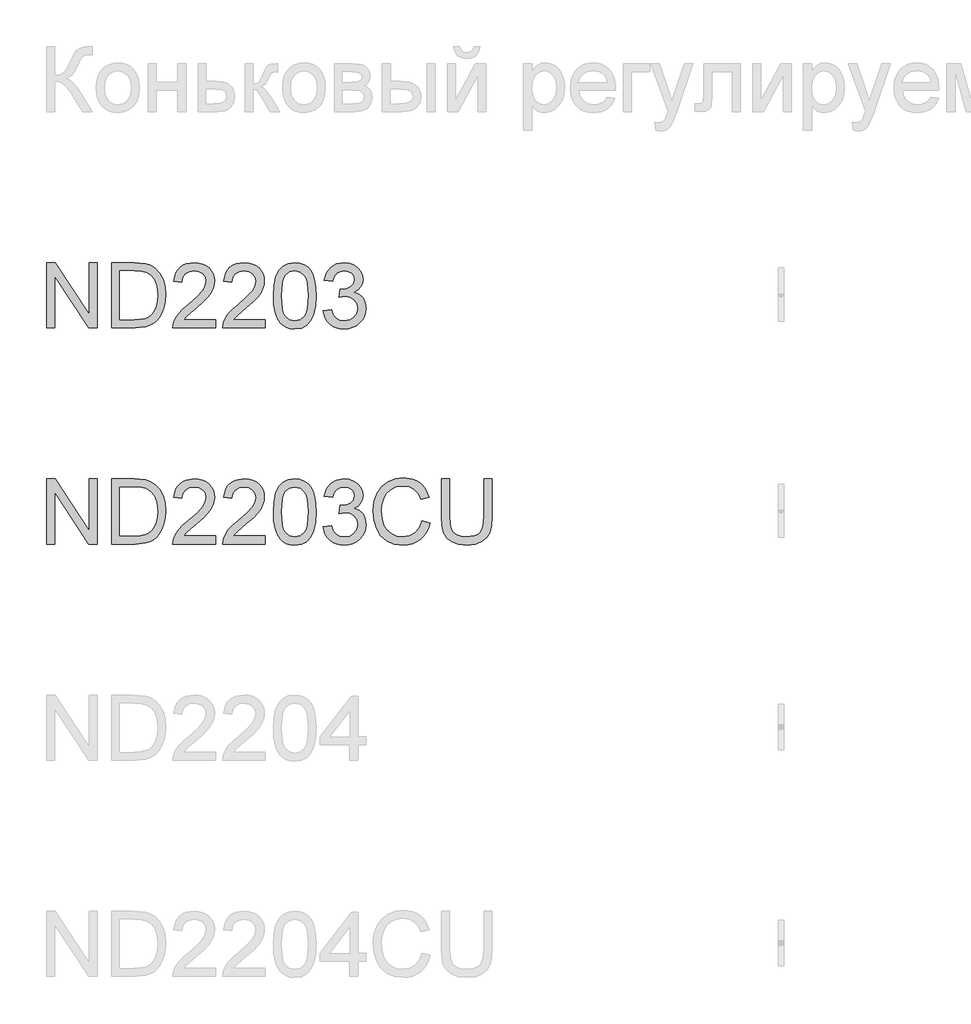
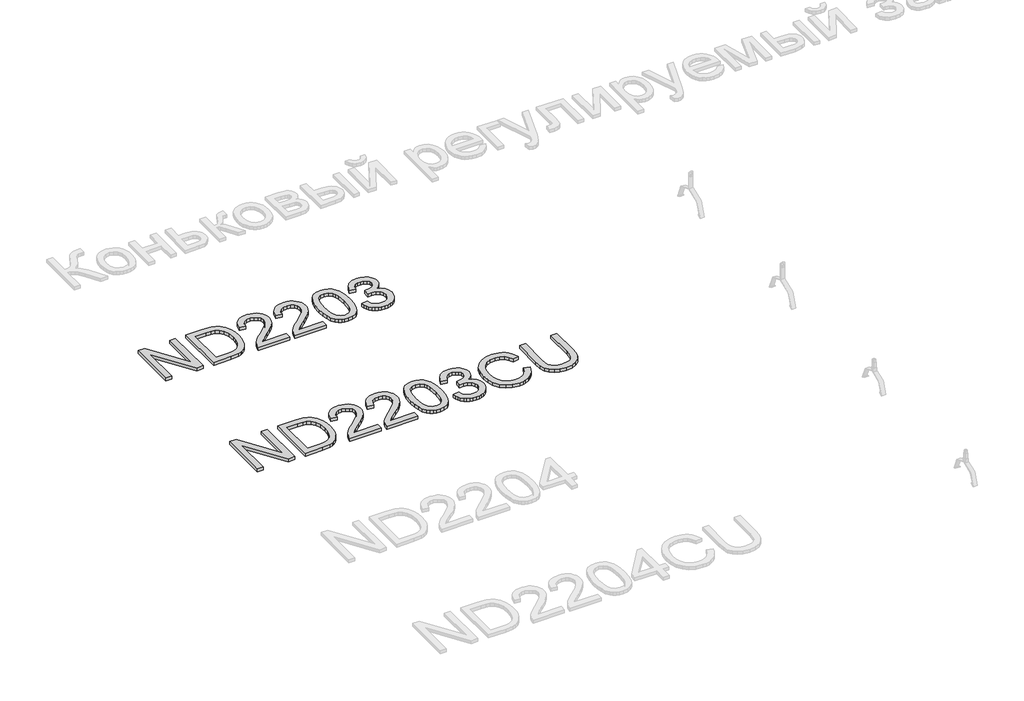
# One storey, part 99 of 124: 2 proxies.
"""IFC4 building model written with IfcOpenShell, lengths in millimetres."""

from ifc_helpers import new_model, si_unit, origin, origin_with_axes, place, context, project, spatial, polyline, outline, extrude, element, save

model = new_model("IFC4")

# Units and contexts
model_context = context("Model", 3, world=origin())
ifc_project = project(units=[si_unit("LENGTHUNIT", "METRE", prefix="MILLI")], contexts=[model_context])

# Site, building, storey
site = spatial("IfcSite", under=ifc_project)
building = spatial("IfcBuilding", under=site)
storey = spatial("IfcBuildingStorey", under=building, Name="Этаж 01", Elevation=0.0)

# Proxies
placement = place(None, origin())
element("IfcBuildingElementProxy", 1, Name="300", ObjectType="300", at=placement, inside=storey, context=model_context, shape_type="SweptSolid", body=[
    extrude(outline(polyline([(23340.1671275, -11519.5141033), (23340.1671275, -11218.1451728), (23380.4869942, -11218.1451728), (23537.9404881, -11456.9005877), (23537.9404881, -11218.1451728), (23575.6116044, -11218.1451728), (23575.6116044, -11519.5141033), (23535.2917378, -11519.5141033), (23377.8382438, -11280.685112), (23377.8382438, -11519.5141033), (23340.1671275, -11519.5141033)])), origin_with_axes(), (0.0, 0.0, 1.0), 20.0),
    extrude(outline(polyline([(23641.536058, -11519.5141033), (23641.536058, -11218.1451728), (23745.4995098, -11218.1451728), (23799.2838575, -11222.4861804), (23823.3065518, -11230.8554957), (23843.5768497, -11244.0440653), (23864.4173648, -11266.9999018), (23879.2614033, -11295.5475446), (23888.1457534, -11329.1351708), (23891.1072035, -11367.2109573), (23889.1022466, -11399.5569817), (23883.087376, -11428.0218511), (23873.9271143, -11452.2560775), (23862.4859843, -11471.9101731), (23849.3158089, -11487.4255962), (23834.968411, -11499.2438053), (23818.4964947, -11508.0085939), (23798.9527637, -11514.3637553), (23750.5027049, -11519.5141033), (23641.536058, -11519.5141033)]), holes=[polyline([(23679.2071743, -11481.842987), (23745.8673918, -11481.842987), (23773.4401473, -11480.4818236), (23794.3542388, -11476.3983334), (23810.1363764, -11469.8316398), (23822.3132704, -11461.020866), (23835.4006724, -11444.7144966), (23845.2323187, -11423.6072671), (23851.3851451, -11397.6072071), (23853.4360872, -11366.6223461), (23849.4169764, -11325.5667154), (23837.359644, -11295.253239), (23819.5449584, -11274.4311181), (23798.2537879, -11261.8495538), (23776.5855384, -11257.3246053), (23744.8373222, -11255.8162891), (23679.2071743, -11255.8162891), (23679.2071743, -11481.842987)])]), origin_with_axes(), (0.0, 0.0, 1.0), 20.0),
    extrude(outline(polyline([(24121.8427909, -11481.842987), (24121.8427909, -11519.5141033), (23924.0694303, -11519.5141033), (23928.1161322, -11493.5416344), (23937.4051526, -11473.2437453), (23950.9983923, -11453.5528615), (23970.661685, -11432.9422727), (23998.1608641, -11409.8852687), (24038.8118246, -11373.7776509), (24063.2024008, -11347.1246003), (24075.397689, -11325.493139), (24079.462785, -11304.4502889), (24075.6276152, -11285.5871396), (24064.1221058, -11269.9061695), (24046.4361789, -11259.3387592), (24024.0597566, -11255.8162891), (24000.5612941, -11259.2559858), (23982.3051501, -11269.5750757), (23970.5237292, -11285.9642186), (23966.4494361, -11307.614074), (23928.7783198, -11302.9051845), (23937.9109903, -11266.4664729), (23946.4573489, -11251.9305355), (23957.6570564, -11239.8502105), (23971.2525954, -11230.3542565), (23986.9864485, -11223.5714322), (24024.869097, -11218.1451728), (24045.0589207, -11219.653489), (24063.0276569, -11224.1784375), (24078.7753056, -11231.7200184), (24092.3018667, -11242.2782317), (24103.1658818, -11255.0713281), (24110.9258927, -11269.3175583), (24115.5818992, -11285.0169225), (24117.1339013, -11302.1694205), (24115.4600383, -11320.1864412), (24110.438449, -11337.8907622), (24101.5265077, -11355.8985859), (24088.1815883, -11374.8261146), (24066.9088119, -11397.4232661), (24034.2132996, -11426.4399585), (23990.8768006, -11462.676335), (23973.8806524, -11481.842987), (24121.8427909, -11481.842987)])), origin_with_axes(), (0.0, 0.0, 1.0), 20.0),
    extrude(outline(polyline([(24352.5783783, -11481.842987), (24352.5783783, -11519.5141033), (24154.8050176, -11519.5141033), (24158.8517196, -11493.5416344), (24168.14074, -11473.2437453), (24181.7339797, -11453.5528615), (24201.3972723, -11432.9422727), (24228.8964515, -11409.8852687), (24269.5474119, -11373.7776509), (24293.9379882, -11347.1246003), (24306.1332764, -11325.493139), (24310.1983724, -11304.4502889), (24306.3632026, -11285.5871396), (24294.8576932, -11269.9061695), (24277.1717663, -11259.3387592), (24254.7953439, -11255.8162891), (24231.2968815, -11259.2559858), (24213.0407375, -11269.5750757), (24201.2593166, -11285.9642186), (24197.1850235, -11307.614074), (24159.5139072, -11302.9051845), (24168.6465777, -11266.4664729), (24177.1929363, -11251.9305355), (24188.3926438, -11239.8502105), (24201.9881828, -11230.3542565), (24217.7220359, -11223.5714322), (24255.6046843, -11218.1451728), (24275.7945081, -11219.653489), (24293.7632443, -11224.1784375), (24309.5108929, -11231.7200184), (24323.037454, -11242.2782317), (24333.9014692, -11255.0713281), (24341.66148, -11269.3175583), (24346.3174865, -11285.0169225), (24347.8694887, -11302.1694205), (24346.1956256, -11320.1864412), (24341.1740364, -11337.8907622), (24332.2620951, -11355.8985859), (24318.9171757, -11374.8261146), (24297.6443993, -11397.4232661), (24264.948887, -11426.4399585), (24221.612388, -11462.676335), (24204.6162398, -11481.842987), (24352.5783783, -11481.842987)])), origin_with_axes(), (0.0, 0.0, 1.0), 20.0),
    extrude(outline(polyline([(24390.2494946, -11371.2576592), (24393.0178066, -11323.0191326), (24401.3227426, -11284.5478729), (24415.0815292, -11255.2552691), (24434.211393, -11234.5527098), (24458.8502896, -11222.2470571), (24489.1361749, -11218.1451728), (24512.3495288, -11220.573194), (24533.1348615, -11227.8572575), (24550.5172858, -11239.7122548), (24563.5219143, -11255.8530773), (24573.3443636, -11276.1417694), (24581.1802501, -11300.4403751), (24586.3122039, -11331.2964775), (24588.0228552, -11371.2576592), (24585.2821343, -11419.2202743), (24577.0599717, -11457.5995635), (24563.3839585, -11486.9197585), (24544.2816859, -11507.7050912), (24519.587607, -11520.0935174), (24489.1361749, -11524.2229928), (24468.3876303, -11522.4295681), (24449.9935306, -11517.0492939), (24433.9538756, -11508.0821703), (24420.2686654, -11495.5281972), (24407.1352781, -11472.8344766), (24397.7542873, -11444.5581467), (24392.1256927, -11410.6992076), (24390.2494946, -11371.2576592)]), holes=[polyline([(24427.9206109, -11371.1840828), (24432.3351948, -11430.4406752), (24437.8534247, -11450.7086739), (24445.5789466, -11464.7364742), (24465.2974216, -11481.0980259), (24489.1361749, -11486.5518765), (24512.9749282, -11481.0796318), (24532.6934031, -11464.6628978), (24540.418925, -11450.6121048), (24545.9371549, -11430.3487047), (24550.3517389, -11371.1840828), (24546.0843077, -11313.2610627), (24540.7500188, -11293.0597426), (24533.2820143, -11278.6985492), (24513.6003275, -11261.5368541), (24488.6947165, -11255.8162891), (24465.1134806, -11260.8562725), (24446.1675578, -11275.9762225), (24438.1845185, -11291.6112072), (24432.4823476, -11312.6908456), (24427.9206109, -11371.1840828)])]), origin_with_axes(), (0.0, 0.0, 1.0), 20.0),
    extrude(outline(polyline([(24620.9850819, -11439.4629811), (24658.6561982, -11434.7540916), (24667.089893, -11458.427298), (24679.441531, -11474.4117707), (24696.3181175, -11483.51685), (24718.3266579, -11486.5518765), (24744.1519739, -11482.3764158), (24764.0911781, -11469.8500339), (24776.8382892, -11451.1616286), (24781.0873262, -11428.5000977), (24776.8750774, -11406.988198), (24764.2383309, -11389.5413944), (24745.1084671, -11377.9807027), (24721.4168666, -11374.1271388), (24695.0029394, -11378.2474171), (24699.1967941, -11340.5763008), (24705.2300588, -11341.0177592), (24727.7996192, -11338.3138265), (24747.9779467, -11330.2020285), (24762.2149799, -11316.4800301), (24766.9606576, -11296.9454962), (24763.520961, -11280.6759149), (24753.201871, -11267.4781484), (24737.4565216, -11258.7317539), (24717.7380467, -11255.8162891), (24697.9827835, -11258.7593451), (24681.8327639, -11267.588513), (24670.042146, -11282.3037928), (24663.3650878, -11302.9051845), (24625.6939715, -11298.196295), (24636.7856136, -11264.3695455), (24656.5224827, -11239.1144465), (24683.5250211, -11223.3874912), (24716.4136715, -11218.1451728), (24740.0960749, -11220.7295438), (24761.8470979, -11228.4826569), (24780.1860153, -11240.7147332), (24793.6321023, -11256.7359941), (24801.881856, -11275.1944732), (24804.6317739, -11294.7382042), (24802.0198118, -11312.948363), (24794.1839253, -11329.4662646), (24781.234479, -11343.5377509), (24763.2818377, -11354.4086638), (24786.8630736, -11363.9368075), (24804.3374683, -11380.1604035), (24815.153199, -11402.196535), (24818.7584425, -11429.1622852), (24816.9558208, -11448.2737549), (24811.5479554, -11465.8769084), (24802.5348466, -11481.9717457), (24789.9164941, -11496.5582668), (24774.5436252, -11508.6615844), (24757.266967, -11517.3068113), (24738.0865195, -11522.4939474), (24717.0022827, -11524.2229928), (24697.9459953, -11522.7468663), (24680.5819652, -11518.3184868), (24664.9101922, -11510.9378542), (24650.9306763, -11500.6049687), (24639.2090363, -11487.9268354), (24630.3108905, -11473.5104598), (24624.2362391, -11457.3558417), (24620.9850819, -11439.4629811)])), origin_with_axes(), (0.0, 0.0, 1.0), 20.0),
])
element("IfcBuildingElementProxy", 2, Name="300", ObjectType="300", at=placement, inside=storey, context=model_context, shape_type="SweptSolid", body=[
    extrude(outline(polyline([(23340.1671275, -12519.5141033), (23340.1671275, -12218.1451728), (23380.4869942, -12218.1451728), (23537.9404881, -12456.9005877), (23537.9404881, -12218.1451728), (23575.6116044, -12218.1451728), (23575.6116044, -12519.5141033), (23535.2917378, -12519.5141033), (23377.8382438, -12280.685112), (23377.8382438, -12519.5141033), (23340.1671275, -12519.5141033)])), origin_with_axes(), (0.0, 0.0, 1.0), 20.0),
    extrude(outline(polyline([(23641.536058, -12519.5141033), (23641.536058, -12218.1451728), (23745.4995098, -12218.1451728), (23799.2838575, -12222.4861804), (23823.3065518, -12230.8554957), (23843.5768497, -12244.0440653), (23864.4173648, -12266.9999018), (23879.2614033, -12295.5475446), (23888.1457534, -12329.1351708), (23891.1072035, -12367.2109573), (23889.1022466, -12399.5569817), (23883.087376, -12428.0218511), (23873.9271143, -12452.2560775), (23862.4859843, -12471.9101731), (23849.3158089, -12487.4255962), (23834.968411, -12499.2438053), (23818.4964947, -12508.0085939), (23798.9527637, -12514.3637553), (23750.5027049, -12519.5141033), (23641.536058, -12519.5141033)]), holes=[polyline([(23679.2071743, -12481.842987), (23745.8673918, -12481.842987), (23773.4401473, -12480.4818236), (23794.3542388, -12476.3983334), (23810.1363764, -12469.8316398), (23822.3132704, -12461.020866), (23835.4006724, -12444.7144966), (23845.2323187, -12423.6072671), (23851.3851451, -12397.6072071), (23853.4360872, -12366.6223461), (23849.4169764, -12325.5667154), (23837.359644, -12295.253239), (23819.5449584, -12274.4311181), (23798.2537879, -12261.8495538), (23776.5855384, -12257.3246053), (23744.8373222, -12255.8162891), (23679.2071743, -12255.8162891), (23679.2071743, -12481.842987)])]), origin_with_axes(), (0.0, 0.0, 1.0), 20.0),
    extrude(outline(polyline([(24121.8427909, -12481.842987), (24121.8427909, -12519.5141033), (23924.0694303, -12519.5141033), (23928.1161322, -12493.5416344), (23937.4051526, -12473.2437453), (23950.9983923, -12453.5528615), (23970.661685, -12432.9422727), (23998.1608641, -12409.8852687), (24038.8118246, -12373.7776509), (24063.2024008, -12347.1246003), (24075.397689, -12325.493139), (24079.462785, -12304.4502889), (24075.6276152, -12285.5871396), (24064.1221058, -12269.9061695), (24046.4361789, -12259.3387592), (24024.0597566, -12255.8162891), (24000.5612941, -12259.2559858), (23982.3051501, -12269.5750757), (23970.5237292, -12285.9642186), (23966.4494361, -12307.614074), (23928.7783198, -12302.9051845), (23937.9109903, -12266.4664729), (23946.4573489, -12251.9305355), (23957.6570564, -12239.8502105), (23971.2525954, -12230.3542565), (23986.9864485, -12223.5714322), (24024.869097, -12218.1451728), (24045.0589207, -12219.653489), (24063.0276569, -12224.1784375), (24078.7753056, -12231.7200184), (24092.3018667, -12242.2782317), (24103.1658818, -12255.0713281), (24110.9258927, -12269.3175583), (24115.5818992, -12285.0169225), (24117.1339013, -12302.1694205), (24115.4600383, -12320.1864412), (24110.438449, -12337.8907622), (24101.5265077, -12355.8985859), (24088.1815883, -12374.8261146), (24066.9088119, -12397.4232661), (24034.2132996, -12426.4399585), (23990.8768006, -12462.676335), (23973.8806524, -12481.842987), (24121.8427909, -12481.842987)])), origin_with_axes(), (0.0, 0.0, 1.0), 20.0),
    extrude(outline(polyline([(24352.5783783, -12481.842987), (24352.5783783, -12519.5141033), (24154.8050176, -12519.5141033), (24158.8517196, -12493.5416344), (24168.14074, -12473.2437453), (24181.7339797, -12453.5528615), (24201.3972723, -12432.9422727), (24228.8964515, -12409.8852687), (24269.5474119, -12373.7776509), (24293.9379882, -12347.1246003), (24306.1332764, -12325.493139), (24310.1983724, -12304.4502889), (24306.3632026, -12285.5871396), (24294.8576932, -12269.9061695), (24277.1717663, -12259.3387592), (24254.7953439, -12255.8162891), (24231.2968815, -12259.2559858), (24213.0407375, -12269.5750757), (24201.2593166, -12285.9642186), (24197.1850235, -12307.614074), (24159.5139072, -12302.9051845), (24168.6465777, -12266.4664729), (24177.1929363, -12251.9305355), (24188.3926438, -12239.8502105), (24201.9881828, -12230.3542565), (24217.7220359, -12223.5714322), (24255.6046843, -12218.1451728), (24275.7945081, -12219.653489), (24293.7632443, -12224.1784375), (24309.5108929, -12231.7200184), (24323.037454, -12242.2782317), (24333.9014692, -12255.0713281), (24341.66148, -12269.3175583), (24346.3174865, -12285.0169225), (24347.8694887, -12302.1694205), (24346.1956256, -12320.1864412), (24341.1740364, -12337.8907622), (24332.2620951, -12355.8985859), (24318.9171757, -12374.8261146), (24297.6443993, -12397.4232661), (24264.948887, -12426.4399585), (24221.612388, -12462.676335), (24204.6162398, -12481.842987), (24352.5783783, -12481.842987)])), origin_with_axes(), (0.0, 0.0, 1.0), 20.0),
    extrude(outline(polyline([(24390.2494946, -12371.2576592), (24393.0178066, -12323.0191326), (24401.3227426, -12284.5478729), (24415.0815292, -12255.2552691), (24434.211393, -12234.5527098), (24458.8502896, -12222.2470571), (24489.1361749, -12218.1451728), (24512.3495288, -12220.573194), (24533.1348615, -12227.8572575), (24550.5172858, -12239.7122548), (24563.5219143, -12255.8530773), (24573.3443636, -12276.1417694), (24581.1802501, -12300.4403751), (24586.3122039, -12331.2964775), (24588.0228552, -12371.2576592), (24585.2821343, -12419.2202743), (24577.0599717, -12457.5995635), (24563.3839585, -12486.9197585), (24544.2816859, -12507.7050912), (24519.587607, -12520.0935174), (24489.1361749, -12524.2229928), (24468.3876303, -12522.4295681), (24449.9935306, -12517.0492939), (24433.9538756, -12508.0821703), (24420.2686654, -12495.5281972), (24407.1352781, -12472.8344766), (24397.7542873, -12444.5581467), (24392.1256927, -12410.6992076), (24390.2494946, -12371.2576592)]), holes=[polyline([(24427.9206109, -12371.1840828), (24432.3351948, -12430.4406752), (24437.8534247, -12450.7086739), (24445.5789466, -12464.7364742), (24465.2974216, -12481.0980259), (24489.1361749, -12486.5518765), (24512.9749282, -12481.0796318), (24532.6934031, -12464.6628978), (24540.418925, -12450.6121048), (24545.9371549, -12430.3487047), (24550.3517389, -12371.1840828), (24546.0843077, -12313.2610627), (24540.7500188, -12293.0597426), (24533.2820143, -12278.6985492), (24513.6003275, -12261.5368541), (24488.6947165, -12255.8162891), (24465.1134806, -12260.8562725), (24446.1675578, -12275.9762225), (24438.1845185, -12291.6112072), (24432.4823476, -12312.6908456), (24427.9206109, -12371.1840828)])]), origin_with_axes(), (0.0, 0.0, 1.0), 20.0),
    extrude(outline(polyline([(24620.9850819, -12439.4629811), (24658.6561982, -12434.7540916), (24667.089893, -12458.427298), (24679.441531, -12474.4117707), (24696.3181175, -12483.51685), (24718.3266579, -12486.5518765), (24744.1519739, -12482.3764158), (24764.0911781, -12469.8500339), (24776.8382892, -12451.1616286), (24781.0873262, -12428.5000977), (24776.8750774, -12406.988198), (24764.2383309, -12389.5413944), (24745.1084671, -12377.9807027), (24721.4168666, -12374.1271388), (24695.0029394, -12378.2474171), (24699.1967941, -12340.5763008), (24705.2300588, -12341.0177592), (24727.7996192, -12338.3138265), (24747.9779467, -12330.2020285), (24762.2149799, -12316.4800301), (24766.9606576, -12296.9454962), (24763.520961, -12280.6759149), (24753.201871, -12267.4781484), (24737.4565216, -12258.7317539), (24717.7380467, -12255.8162891), (24697.9827835, -12258.7593451), (24681.8327639, -12267.588513), (24670.042146, -12282.3037928), (24663.3650878, -12302.9051845), (24625.6939715, -12298.196295), (24636.7856136, -12264.3695455), (24656.5224827, -12239.1144465), (24683.5250211, -12223.3874912), (24716.4136715, -12218.1451728), (24740.0960749, -12220.7295438), (24761.8470979, -12228.4826569), (24780.1860153, -12240.7147332), (24793.6321023, -12256.7359941), (24801.881856, -12275.1944732), (24804.6317739, -12294.7382042), (24802.0198118, -12312.948363), (24794.1839253, -12329.4662646), (24781.234479, -12343.5377509), (24763.2818377, -12354.4086638), (24786.8630736, -12363.9368075), (24804.3374683, -12380.1604035), (24815.153199, -12402.196535), (24818.7584425, -12429.1622852), (24816.9558208, -12448.2737549), (24811.5479554, -12465.8769084), (24802.5348466, -12481.9717457), (24789.9164941, -12496.5582668), (24774.5436252, -12508.6615844), (24757.266967, -12517.3068113), (24738.0865195, -12522.4939474), (24717.0022827, -12524.2229928), (24697.9459953, -12522.7468663), (24680.5819652, -12518.3184868), (24664.9101922, -12510.9378542), (24650.9306763, -12500.6049687), (24639.2090363, -12487.9268354), (24630.3108905, -12473.5104598), (24624.2362391, -12457.3558417), (24620.9850819, -12439.4629811)])), origin_with_axes(), (0.0, 0.0, 1.0), 20.0),
    extrude(outline(polyline([(25077.7473671, -12412.3868663), (25115.4184835, -12422.0989509), (25107.9642745, -12445.5261362), (25098.0360592, -12465.99647), (25085.6338374, -12483.5099522), (25070.7576092, -12498.0665829), (25053.743067, -12509.5100123), (25034.9259029, -12517.6838903), (25014.3061171, -12522.5882172), (24991.8837095, -12524.2229928), (24948.1885255, -12519.27498), (24913.4880563, -12504.4309415), (24886.890188, -12480.2059121), (24867.5028069, -12447.1149266), (24855.6662037, -12408.2114056), (24851.7206693, -12366.5487697), (24856.1812385, -12322.6052653), (24869.5629461, -12284.6582375), (24891.1668162, -12253.9124998), (24920.2938732, -12231.5728656), (24954.8379926, -12217.9704289), (24992.6930499, -12213.4362833), (25033.9970009, -12219.3040011), (25051.9657371, -12226.6386484), (25068.1456471, -12236.9071546), (25082.2700164, -12249.8382067), (25094.0721307, -12265.1604918), (25110.7095939, -12302.9787609), (25073.0384776, -12311.9550816), (25059.9786668, -12284.4834936), (25042.13639, -12265.6387384), (25019.2909181, -12254.7402343), (24991.2215219, -12251.1073996), (24958.8663004, -12255.1357074), (24932.2868263, -12267.220631), (24912.1176959, -12286.0929773), (24898.9935057, -12310.4835536), (24891.7922156, -12338.0563091), (24889.3917856, -12366.4751933), (24892.233674, -12401.27683), (24900.7593393, -12431.3695772), (24915.2906781, -12455.6038036), (24936.1495872, -12472.8298781), (24961.1563658, -12483.1213769), (24988.1313131, -12486.5518765), (25019.5760267, -12481.8797752), (25045.7784218, -12467.8634711), (25065.5612761, -12444.6501172), (25077.7473671, -12412.3868663)])), origin_with_axes(), (0.0, 0.0, 1.0), 20.0),
    extrude(outline(polyline([(25364.989629, -12218.1451728), (25402.6607453, -12218.1451728), (25402.6607453, -12392.0062037), (25400.1039654, -12432.7215435), (25392.4336258, -12464.0742866), (25378.1046221, -12488.2625278), (25355.5718499, -12507.484362), (25324.7801269, -12520.0383351), (25285.6742708, -12524.2229928), (25247.4237404, -12520.580961), (25216.8435495, -12509.6548658), (25193.9245012, -12491.8217861), (25178.6573984, -12467.4588009), (25170.0765509, -12434.7816827), (25167.2162684, -12392.0062037), (25167.2162684, -12218.1451728), (25204.8873847, -12218.1451728), (25204.8873847, -12390.6818285), (25206.7451888, -12424.5361692), (25212.318601, -12448.108208), (25222.4169618, -12464.4329715), (25237.8496114, -12476.5454862), (25257.9727566, -12484.0502789), (25282.1426037, -12486.5518765), (25320.4575135, -12481.6038637), (25334.8003128, -12475.4188476), (25345.9333416, -12466.7598252), (25354.2704673, -12454.5829311), (25360.2255571, -12437.8443003), (25364.989629, -12390.6818285), (25364.989629, -12218.1451728)])), origin_with_axes(), (0.0, 0.0, 1.0), 20.0),
])

save(model, "model.ifc")
